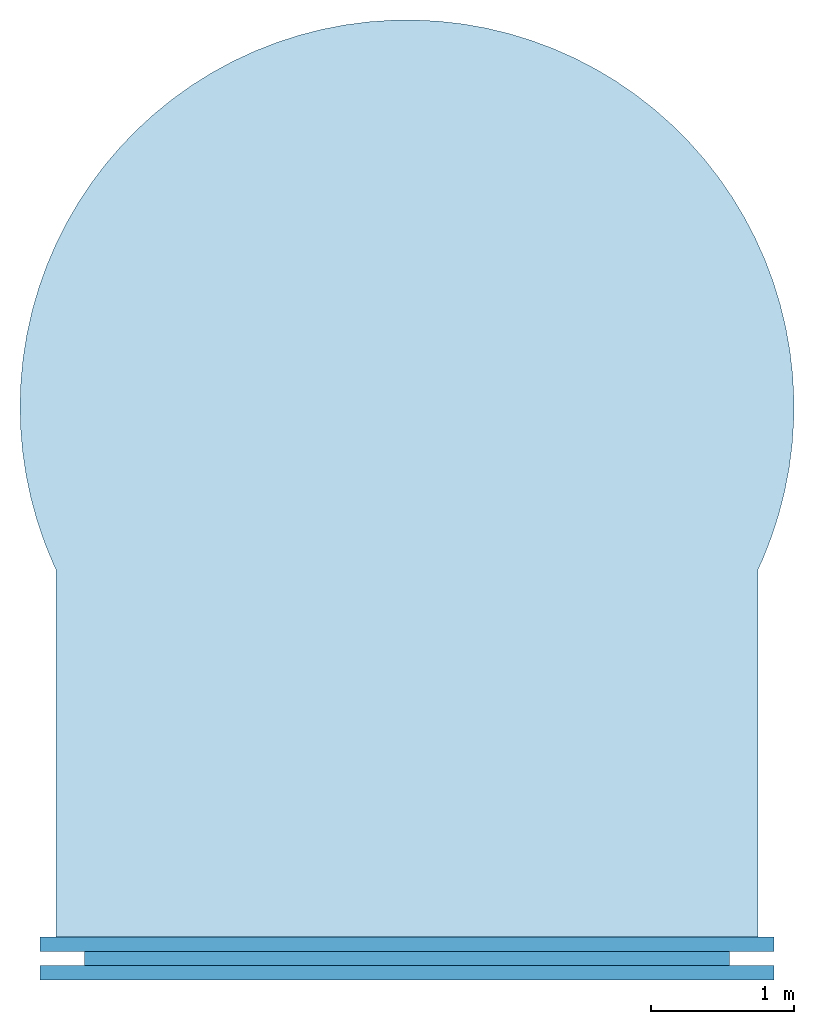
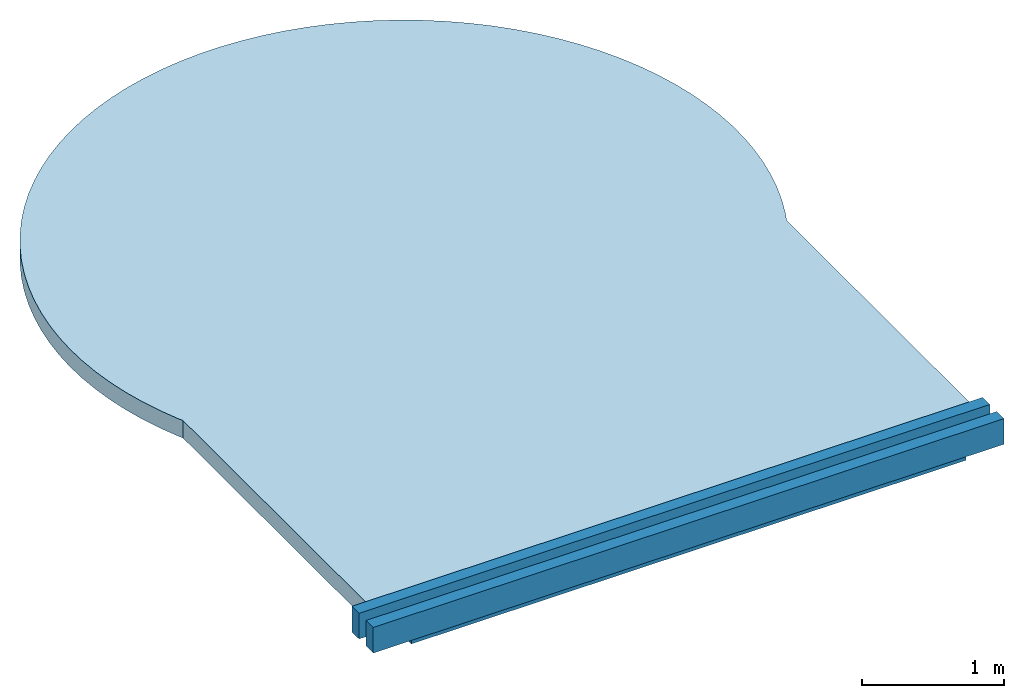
# One storey: 3 beams, 1 slab.
"""IFC4 building model written with IfcOpenShell, lengths in millimetres."""

from ifc_helpers import new_model, entity, si_unit, converted_unit, derived_unit, direction, frame, origin_with_axes, place, context, subcontext, project, spatial, polygons, material, type_object, element, save


model = new_model("IFC4")

# Units and contexts
model_context = context("Model", 3, precision=0.01, world=origin_with_axes(), true_north=direction((0.0, 1.0)))
body_context = subcontext(model_context, "Body", "Model", "MODEL_VIEW")
ifc_project = project(units=[si_unit("LENGTHUNIT", "METRE", prefix="MILLI"), si_unit("AREAUNIT", "SQUARE_METRE"), si_unit("VOLUMEUNIT", "CUBIC_METRE"), converted_unit("PLANEANGLEUNIT", "DEGREE", entity("IfcPlaneAngleMeasure", 0.0174532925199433), si_unit("PLANEANGLEUNIT", "RADIAN"), dimensions=[0, 0, 0, 0, 0, 0, 0]), converted_unit("TIMEUNIT", "Year", entity("IfcTimeMeasure", 31557600.0), si_unit("TIMEUNIT", "SECOND"), dimensions=[0, 0, 1, 0, 0, 0, 0]), si_unit("MASSUNIT", "GRAM", prefix="KILO"), si_unit("THERMODYNAMICTEMPERATUREUNIT", "DEGREE_CELSIUS"), si_unit("LUMINOUSINTENSITYUNIT", "LUMEN"), si_unit("ENERGYUNIT", "JOULE", prefix="MEGA"), derived_unit("THERMALCONDUCTANCEUNIT", [(si_unit("POWERUNIT", "WATT"), 1), (si_unit("LENGTHUNIT", "METRE"), -1), (si_unit("THERMODYNAMICTEMPERATUREUNIT", "KELVIN"), -1)]), derived_unit("SPECIFICHEATCAPACITYUNIT", [(si_unit("ENERGYUNIT", "JOULE"), 1), (si_unit("MASSUNIT", "GRAM", prefix="KILO"), -1), (si_unit("THERMODYNAMICTEMPERATUREUNIT", "KELVIN"), -1)]), derived_unit("MASSDENSITYUNIT", [(si_unit("MASSUNIT", "GRAM", prefix="KILO"), 1), (si_unit("VOLUMEUNIT", "CUBIC_METRE"), -1)])], contexts=[model_context])

# Site, building, storey
site_placement = place(None, origin_with_axes())
site = spatial("IfcSite", under=ifc_project, at=site_placement, Name="Exteriér", CompositionType="ELEMENT")
building_placement = place(site_placement, origin_with_axes())
building = spatial("IfcBuilding", under=site, at=building_placement, Name="Univerzitní lezecké centrum", CompositionType="ELEMENT")
storey_placement = place(building_placement, frame((0.0, 0.0, 9600.000000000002), z_axis=(0.0, 0.0, 1.0), x_axis=(1.0, 0.0, 0.0)))
storey = spatial("IfcBuildingStorey", under=building, at=storey_placement, Name="4.NP", CompositionType="ELEMENT", Elevation=9600.0)

# Beams
ifc_material_1 = material(Name="Ocel - konstrukční")
beam_type_1 = type_object("IfcBeamType", Name="Ocel - konstrukční 100 x 220", PredefinedType="BEAM")
beam_1_placement = place(storey_placement, frame((-110.2478638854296, -49.99996139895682, 2750.000000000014), z_axis=(0.0, 0.0, 1.0), x_axis=(0.0, -1.0, 0.0)))
element("IfcBeam", 1, at=beam_1_placement, inside=storey, type_object=beam_type_1, material=ifc_material_1, Name="Pk04-1", PredefinedType="BEAM", context=body_context, shape_type="Tessellation", body=[
    polygons([(-49.99999999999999, 0.0, -220.0000000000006), (-50.0000000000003, 5120.0, -220.0000000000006), (49.9999999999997, 5120.0, -220.0000000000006), (50.00000000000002, 0.0, -220.0000000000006), (-50.0, 0.0, 0.0), (-50.00000000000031, 5120.0, 0.0), (49.99999999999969, 5120.0, 0.0), (50.00000000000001, 0.0, 0.0)], [[[1, 2, 3, 4]], [[5, 6, 2, 1]], [[3, 2, 6, 7]], [[4, 3, 7, 8]], [[5, 1, 4, 8]], [[8, 7, 6, 5]]], closed=True),
])
beam_2_placement = place(storey_placement, frame((-110.2478638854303, -249.9999613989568, 2750.000000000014), z_axis=(0.0, 0.0, 1.0), x_axis=(0.0, -1.0, 0.0)))
element("IfcBeam", 2, at=beam_2_placement, inside=storey, type_object=beam_type_1, material=ifc_material_1, Name="Pk04-3", PredefinedType="BEAM", context=body_context, shape_type="Tessellation", body=[
    polygons([(-49.99999999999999, 0.0, -220.0000000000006), (-50.00000000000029, 5120.0, -220.0000000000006), (49.99999999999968, 5120.0, -220.0000000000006), (50.00000000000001, 0.0, -220.0000000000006), (-50.00000000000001, 0.0, 0.0), (-50.00000000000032, 5120.0, 0.0), (49.99999999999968, 5120.0, 0.0), (50.00000000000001, 0.0, 0.0)], [[[1, 2, 3, 4]], [[5, 6, 2, 1]], [[3, 2, 6, 7]], [[4, 3, 7, 8]], [[5, 1, 4, 8]], [[8, 7, 6, 5]]], closed=True),
])
ifc_material_2 = material(Name="Dřevotříska")
beam_type_2 = type_object("IfcBeamType", Name="Dřevotříska 300 x 30", PredefinedType="BEAM")
beam_3_placement = place(storey_placement, frame((199.7806379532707, -149.9999613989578, 2530.000000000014), z_axis=(0.0, 0.0, 1.0), x_axis=(0.0, -1.0, 0.0)))
element("IfcBeam", 3, at=beam_3_placement, inside=storey, type_object=beam_type_2, material=ifc_material_2, PredefinedType="BEAM", context=body_context, shape_type="Tessellation", body=[
    polygons([(-150.0, 0.0, -30.00001957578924), (-150.0000000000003, 4499.9714981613, -30.00001957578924), (149.9999999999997, 4499.9714981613, -30.00001957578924), (149.9999999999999, 0.0, -30.00001957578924), (-150.0, 0.0, 0.0), (-150.0000000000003, 4499.9714981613, 0.0), (149.9999999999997, 4499.9714981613, 0.0), (149.9999999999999, 0.0, 0.0)], [[[1, 2, 3, 4]], [[5, 6, 2, 1]], [[3, 2, 6, 7]], [[4, 3, 7, 8]], [[5, 1, 4, 8]], [[8, 7, 6, 5]]], closed=True),
])

# Slab
ifc_material_3 = material(Name="Beton vyztužený stropy")
slab_type = type_object("IfcSlabType", Name="Beton vyztužený stropy 150", PredefinedType="FLOOR")
slab_placement = place(storey_placement, frame((4899.947734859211, 2565.526887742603, 2750.0), z_axis=(0.0, 0.0, 1.0), x_axis=(1.0, 0.0, 0.0)))
element("IfcSlab", 4, at=slab_placement, inside=storey, type_object=slab_type, material=ifc_material_3, Name="D07", PredefinedType="FLOOR", context=body_context, shape_type="Tessellation", body=[
    polygons([(0.0, 0.0, 0.0), (0.0, 0.0, -150.0000000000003), (34.61318457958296, 74.75331683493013, -150.0000000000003), (34.61318457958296, 74.75331683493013, 0.0), (-0.195598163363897, -2565.52688774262, 0.0), (-0.195598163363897, -2565.52688774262, -150.0000000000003), (-4899.947734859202, -2565.52688774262, -150.0000000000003), (-4900.193874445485, 0.003723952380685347, -150.0000000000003), (-4916.157211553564, 32.05367244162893, -150.0000000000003), (-4978.778125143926, 184.445092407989, -150.0000000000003), (-5031.992175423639, 340.3706789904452, -150.0000000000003), (-5075.60140263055, 499.2503787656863, -150.0000000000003), (-5109.443577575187, 660.4931488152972, -150.0000000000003), (-5133.392805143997, 823.4991554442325, -150.0000000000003), (-5147.359992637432, 987.6620056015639, -150.0000000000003), (-5151.293181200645, 1152.371002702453, -150.0000000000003), (-5145.177739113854, 1317.013418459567, -150.0000000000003), (-5129.036416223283, 1480.976772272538, -150.0000000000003), (-5102.92925931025, 1643.651109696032, -150.0000000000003), (-5066.953388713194, 1804.431271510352, -150.0000000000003), (-5021.242637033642, 1962.719144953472, -150.0000000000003), (-4965.967051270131, 2117.925888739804, -150.0000000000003), (-4901.332260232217, 2269.474123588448, -150.0000000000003), (-4827.578709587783, 2416.800080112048, -150.0000000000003), (-4744.980767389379, 2559.355696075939, -150.0000000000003), (-4653.845703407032, 2696.610655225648, -150.0000000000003), (-4554.512546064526, 2828.054360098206, -150.0000000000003), (-4447.350821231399, 2953.197831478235, -150.0000000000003), (-4332.759177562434, 3071.575527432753, -150.0000000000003), (-4211.163903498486, 3182.747075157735, -150.0000000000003), (-4083.017341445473, 3286.298909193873, -150.0000000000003), (-3948.796205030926, 3381.84580991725, -150.0000000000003), (-3808.999805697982, 3469.032336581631, -150.0000000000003), (-3664.148195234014, 3547.534149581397, -150.0000000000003), (-3514.780231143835, 3617.059217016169, -150.0000000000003), (-3361.451572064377, 3677.348901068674, -150.0000000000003), (-3204.732610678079, 3728.178920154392, -150.0000000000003), (-3045.206351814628, 3769.360183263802, -150.0000000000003), (-2883.466243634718, 3800.739493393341, -150.0000000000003), (-2720.113969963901, 3822.200117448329, -150.0000000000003), (-2555.757211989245, 3833.662220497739, -150.0000000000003), (-2391.007387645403, 3835.083162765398, -150.0000000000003), (-2226.477377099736, 3826.457658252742, -150.0000000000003), (-2062.779242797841, 3807.817794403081, -150.0000000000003), (-1900.52195255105, 3779.232912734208, -150.0000000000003), (-1740.309114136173, 3740.80935088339, -150.0000000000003), (-1582.736729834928, 3692.690047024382, -150.0000000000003), (-1428.390979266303, 3635.054008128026, -150.0000000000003), (-1277.846038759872, 3568.115644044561, -150.0000000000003), (-1131.661945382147, 3492.123969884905, -150.0000000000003), (-990.382513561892, 3407.361679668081, -150.0000000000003), (-854.5333120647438, 3314.144094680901, -150.0000000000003), (-724.6197088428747, 3212.817990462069, -150.0000000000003), (-601.1249910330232, 3103.760306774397, -150.0000000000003), (-484.5085670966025, 2987.376745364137, -150.0000000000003), (-375.2042577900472, 2864.10026072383, -150.0000000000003), (-273.6186823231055, 2734.389449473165, -150.0000000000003), (-180.1297457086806, 2598.726844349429, -150.0000000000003), (-95.08523293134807, 2457.61711915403, -150.0000000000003), (-18.80151516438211, 2311.585211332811, -150.0000000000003), (48.43762715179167, 2161.174369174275, -150.0000000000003), (106.3820599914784, 2006.944130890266, -150.0000000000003), (154.8162262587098, 1849.468243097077, -150.0000000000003), (193.5599476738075, 1689.332526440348, -150.0000000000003), (222.4690950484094, 1527.132696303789, -150.0000000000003), (241.4361244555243, 1363.472146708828, -150.0000000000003), (250.390477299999, 1198.959705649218, -150.0000000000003), (249.298842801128, 1034.207370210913, -150.0000000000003), (238.1652819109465, 869.8280299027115, -150.0000000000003), (217.0312122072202, 706.4331866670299, -150.0000000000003), (185.975253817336, 544.6306800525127, -150.0000000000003), (145.1129369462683, 385.0224260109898, -150.0000000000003), (94.5962720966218, 228.2021777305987, -150.0000000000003), (94.5962720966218, 228.2021777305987, 0.0), (145.1129369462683, 385.0224260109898, 0.0), (185.975253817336, 544.6306800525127, 0.0), (217.0312122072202, 706.4331866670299, 0.0), (238.1652819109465, 869.8280299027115, 0.0), (249.298842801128, 1034.207370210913, 0.0), (250.390477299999, 1198.959705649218, 0.0), (241.4361244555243, 1363.472146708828, 0.0), (222.4690950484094, 1527.132696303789, 0.0), (193.5599476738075, 1689.332526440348, 0.0), (154.8162262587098, 1849.468243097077, 0.0), (106.3820599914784, 2006.944130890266, 0.0), (48.43762715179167, 2161.174369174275, 0.0), (-18.80151516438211, 2311.585211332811, 0.0), (-95.08523293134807, 2457.61711915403, 0.0), (-180.1297457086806, 2598.726844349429, 0.0), (-273.6186823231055, 2734.389449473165, 0.0), (-375.2042577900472, 2864.10026072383, 0.0), (-484.5085670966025, 2987.376745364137, 0.0), (-601.1249910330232, 3103.760306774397, 0.0), (-724.6197088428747, 3212.817990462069, 0.0), (-854.5333120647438, 3314.144094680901, 0.0), (-990.382513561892, 3407.361679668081, 0.0), (-1131.661945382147, 3492.123969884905, 0.0), (-1277.846038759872, 3568.115644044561, 0.0), (-1428.390979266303, 3635.054008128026, 0.0), (-1582.736729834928, 3692.690047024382, 0.0), (-1740.309114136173, 3740.80935088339, 0.0), (-1900.52195255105, 3779.232912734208, 0.0), (-2062.779242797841, 3807.817794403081, 0.0), (-2226.477377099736, 3826.457658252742, 0.0), (-2391.007387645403, 3835.083162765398, 0.0), (-2555.757211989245, 3833.662220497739, 0.0), (-2720.113969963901, 3822.200117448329, 0.0), (-2883.466243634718, 3800.739493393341, 0.0), (-3045.206351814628, 3769.360183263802, 0.0), (-3204.732610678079, 3728.178920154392, 0.0), (-3361.451572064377, 3677.348901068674, 0.0), (-3514.780231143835, 3617.059217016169, 0.0), (-3664.148195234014, 3547.534149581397, 0.0), (-3808.999805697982, 3469.032336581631, 0.0), (-3948.796205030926, 3381.84580991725, 0.0), (-4083.017341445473, 3286.298909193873, 0.0), (-4211.163903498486, 3182.747075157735, 0.0), (-4332.759177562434, 3071.575527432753, 0.0), (-4447.350821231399, 2953.197831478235, 0.0), (-4554.512546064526, 2828.054360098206, 0.0), (-4653.845703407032, 2696.610655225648, 0.0), (-4744.980767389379, 2559.355696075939, 0.0), (-4827.578709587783, 2416.800080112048, 0.0), (-4901.332260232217, 2269.474123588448, 0.0), (-4965.967051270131, 2117.925888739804, 0.0), (-5021.242637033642, 1962.719144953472, 0.0), (-5066.953388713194, 1804.431271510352, 0.0), (-5102.92925931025, 1643.651109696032, 0.0), (-5129.036416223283, 1480.976772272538, 0.0), (-5145.177739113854, 1317.013418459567, 0.0), (-5151.293181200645, 1152.371002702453, 0.0), (-5147.359992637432, 987.6620056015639, 0.0), (-5133.392805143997, 823.4991554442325, 0.0), (-5109.443577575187, 660.4931488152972, 0.0), (-5075.60140263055, 499.2503787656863, 0.0), (-5031.992175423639, 340.3706789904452, 0.0), (-4978.778125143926, 184.445092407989, 0.0), (-4916.157211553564, 32.05367244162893, 0.0), (-4900.193874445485, 0.003723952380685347, 0.0), (-4899.947734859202, -2565.52688774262, 0.0)], [[[1, 2, 3, 4]], [[5, 6, 2, 1]], [[3, 2, 6, 7, 8, 9, 10, 11, 12, 13, 14, 15, 16, 17, 18, 19, 20, 21, 22, 23, 24, 25, 26, 27, 28, 29, 30, 31, 32, 33, 34, 35, 36, 37, 38, 39, 40, 41, 42, 43, 44, 45, 46, 47, 48, 49, 50, 51, 52, 53, 54, 55, 56, 57, 58, 59, 60, 61, 62, 63, 64, 65, 66, 67, 68, 69, 70, 71, 72, 73]], [[4, 3, 73, 74]], [[5, 1, 4, 74, 75, 76, 77, 78, 79, 80, 81, 82, 83, 84, 85, 86, 87, 88, 89, 90, 91, 92, 93, 94, 95, 96, 97, 98, 99, 100, 101, 102, 103, 104, 105, 106, 107, 108, 109, 110, 111, 112, 113, 114, 115, 116, 117, 118, 119, 120, 121, 122, 123, 124, 125, 126, 127, 128, 129, 130, 131, 132, 133, 134, 135, 136, 137, 138, 139, 140]], [[140, 7, 6, 5]], [[139, 8, 7, 140]], [[138, 9, 8, 139]], [[137, 10, 9, 138]], [[136, 11, 10, 137]], [[135, 12, 11, 136]], [[134, 13, 12, 135]], [[133, 14, 13, 134]], [[132, 15, 14, 133]], [[131, 16, 15, 132]], [[130, 17, 16, 131]], [[129, 18, 17, 130]], [[128, 19, 18, 129]], [[127, 20, 19, 128]], [[126, 21, 20, 127]], [[125, 22, 21, 126]], [[124, 23, 22, 125]], [[123, 24, 23, 124]], [[122, 25, 24, 123]], [[121, 26, 25, 122]], [[120, 27, 26, 121]], [[119, 28, 27, 120]], [[118, 29, 28, 119]], [[117, 30, 29, 118]], [[116, 31, 30, 117]], [[115, 32, 31, 116]], [[114, 33, 32, 115]], [[113, 34, 33, 114]], [[112, 35, 34, 113]], [[111, 36, 35, 112]], [[110, 37, 36, 111]], [[109, 38, 37, 110]], [[108, 39, 38, 109]], [[107, 40, 39, 108]], [[106, 41, 40, 107]], [[105, 42, 41, 106]], [[104, 43, 42, 105]], [[103, 44, 43, 104]], [[102, 45, 44, 103]], [[101, 46, 45, 102]], [[100, 47, 46, 101]], [[99, 48, 47, 100]], [[98, 49, 48, 99]], [[97, 50, 49, 98]], [[96, 51, 50, 97]], [[95, 52, 51, 96]], [[94, 53, 52, 95]], [[93, 54, 53, 94]], [[92, 55, 54, 93]], [[91, 56, 55, 92]], [[90, 57, 56, 91]], [[89, 58, 57, 90]], [[88, 59, 58, 89]], [[87, 60, 59, 88]], [[86, 61, 60, 87]], [[85, 62, 61, 86]], [[84, 63, 62, 85]], [[83, 64, 63, 84]], [[82, 65, 64, 83]], [[81, 66, 65, 82]], [[80, 67, 66, 81]], [[79, 68, 67, 80]], [[78, 69, 68, 79]], [[77, 70, 69, 78]], [[76, 71, 70, 77]], [[75, 72, 71, 76]], [[74, 73, 72, 75]]], closed=True),
])

save(model, "model.ifc")
